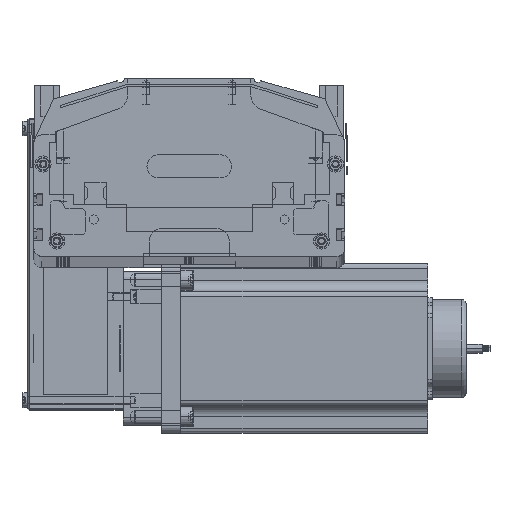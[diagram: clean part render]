
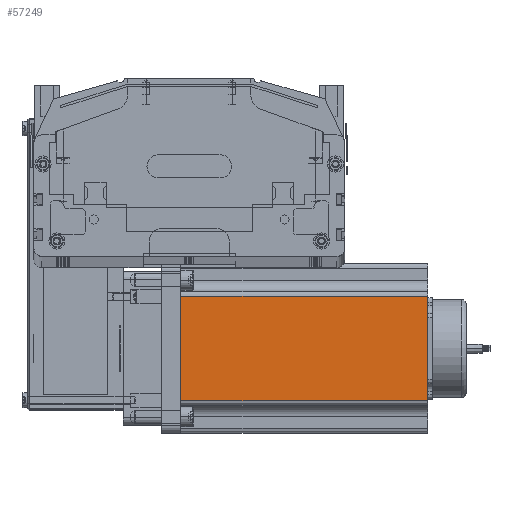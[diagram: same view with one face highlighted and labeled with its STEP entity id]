
A CAD part, top view. The second image highlights one B-rep face of the part: STEP entity #57249.
In plain terms, the highlighted planar face has unit normal (0, 0, 1) as drawn and (0, -1, 0) by its records, which use the part's own axes.
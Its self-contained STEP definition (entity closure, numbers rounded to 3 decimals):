
#57156 = EDGE_CURVE ( 'NONE', #57255, #57211, #93844, .T. ) ;
#57157 = VERTEX_POINT ( 'NONE', #93912 ) ;
#57158 = EDGE_LOOP ( 'NONE', ( #57269, #57195, #57272, #57201 ) ) ;
#57178 = EDGE_CURVE ( 'NONE', #57157, #57255, #93934, .T. ) ;
#57195 = ORIENTED_EDGE ( 'NONE', *, *, #57156, .T. ) ;
#57196 = EDGE_CURVE ( 'NONE', #57246, #57211, #93980, .T. ) ;
#57201 = ORIENTED_EDGE ( 'NONE', *, *, #57209, .T. ) ;
#57209 = EDGE_CURVE ( 'NONE', #57246, #57157, #94044, .T. ) ;
#57211 = VERTEX_POINT ( 'NONE', #94040 ) ;
#57246 = VERTEX_POINT ( 'NONE', #94069 ) ;
#57249 = ADVANCED_FACE ( 'NONE', ( #94012 ), #94072, .F. ) ;
#57255 = VERTEX_POINT ( 'NONE', #94050 ) ;
#57269 = ORIENTED_EDGE ( 'NONE', *, *, #57178, .T. ) ;
#57272 = ORIENTED_EDGE ( 'NONE', *, *, #57196, .F. ) ;
#93844 = LINE ( 'NONE', #93909, #93908 ) ;
#93907 = DIRECTION ( 'NONE',  ( 0., 0., 1. ) ) ;
#93908 = VECTOR ( 'NONE', #93907, 1000. ) ;
#93909 = CARTESIAN_POINT ( 'NONE',  ( 88.952, 0., 160.5 ) ) ;
#93912 = CARTESIAN_POINT ( 'NONE',  ( 21.048, 0., 0. ) ) ;
#93923 = DIRECTION ( 'NONE',  ( 1., 0., 0. ) ) ;
#93924 = VECTOR ( 'NONE', #93923, 1000. ) ;
#93925 = CARTESIAN_POINT ( 'NONE',  ( 0., 0., 0. ) ) ;
#93934 = LINE ( 'NONE', #93925, #93924 ) ;
#93956 = DIRECTION ( 'NONE',  ( 1., 0., 0. ) ) ;
#93960 = CARTESIAN_POINT ( 'NONE',  ( 0., 0., 160.5 ) ) ;
#93962 = VECTOR ( 'NONE', #93956, 1000. ) ;
#93980 = LINE ( 'NONE', #93960, #93962 ) ;
#94012 = FACE_OUTER_BOUND ( 'NONE', #57158, .T. ) ;
#94036 = DIRECTION ( 'NONE',  ( 0., 0., -1. ) ) ;
#94037 = VECTOR ( 'NONE', #94036, 1000. ) ;
#94040 = CARTESIAN_POINT ( 'NONE',  ( 88.952, 0., 160.5 ) ) ;
#94043 = CARTESIAN_POINT ( 'NONE',  ( 21.048, 0., 160.5 ) ) ;
#94044 = LINE ( 'NONE', #94043, #94037 ) ;
#94050 = CARTESIAN_POINT ( 'NONE',  ( 88.952, 0., 0. ) ) ;
#94061 = DIRECTION ( 'NONE',  ( 0., 0., 1. ) ) ;
#94062 = DIRECTION ( 'NONE',  ( 0., 1., 0. ) ) ;
#94063 = CARTESIAN_POINT ( 'NONE',  ( 0., 0., 160.5 ) ) ;
#94069 = CARTESIAN_POINT ( 'NONE',  ( 21.048, 0., 160.5 ) ) ;
#94071 = AXIS2_PLACEMENT_3D ( 'NONE', #94063, #94062, #94061 ) ;
#94072 = PLANE ( 'NONE',  #94071 ) ;
